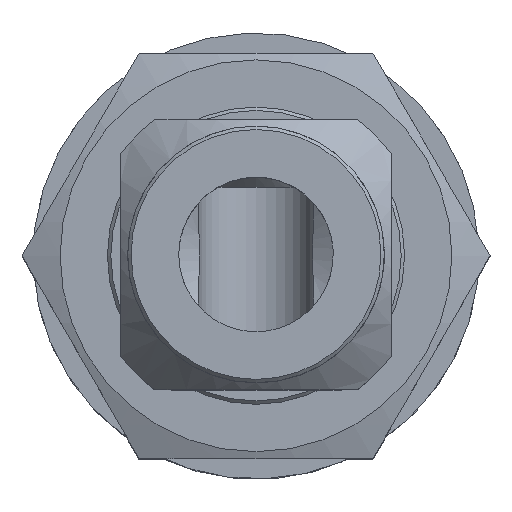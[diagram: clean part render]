
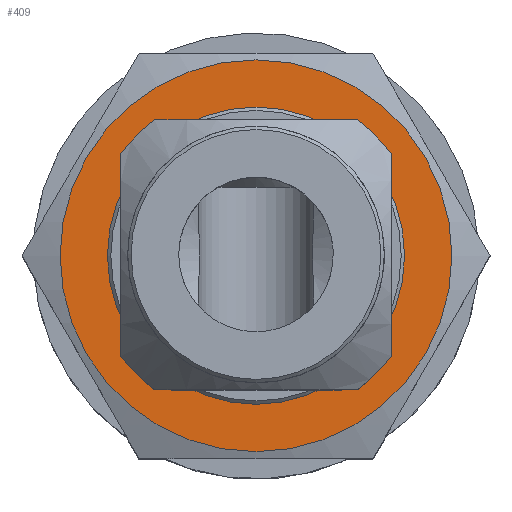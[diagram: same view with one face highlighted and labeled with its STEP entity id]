
A CAD part, top view. The second image highlights one B-rep face of the part: STEP entity #409.
In plain terms, the highlighted planar face has unit normal (0, 0, 1).
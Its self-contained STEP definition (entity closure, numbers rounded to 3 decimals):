
#409=ADVANCED_FACE('',(#735,#736),#737,.F.);
#735=FACE_BOUND('',#1097,.T.);
#736=FACE_OUTER_BOUND('',#1098,.T.);
#737=PLANE('',#1099);
#1097=EDGE_LOOP('',(#2569));
#1098=EDGE_LOOP('',(#2570));
#1099=AXIS2_PLACEMENT_3D('',#2571,#2572,#2573);
#2569=ORIENTED_EDGE('',*,*,#3080,.F.);
#2570=ORIENTED_EDGE('',*,*,#3071,.T.);
#2571=CARTESIAN_POINT('',(8.66,-15.0,0.0));
#2572=DIRECTION('',(0.0,0.0,-1.0));
#2573=DIRECTION('',(-1.0,0.0,0.0));
#3071=EDGE_CURVE('',#3339,#3339,#3340,.T.);
#3080=EDGE_CURVE('',#3352,#3352,#3353,.F.);
#3339=VERTEX_POINT('',#3750);
#3340=CIRCLE('',#3751,14.5);
#3352=VERTEX_POINT('',#3783);
#3353=CIRCLE('',#3784,9.25);
#3750=CARTESIAN_POINT('',(14.5,0.0,0.));
#3751=AXIS2_PLACEMENT_3D('',#4706,#4707,#4708);
#3783=CARTESIAN_POINT('',(-9.25,0.,0.0));
#3784=AXIS2_PLACEMENT_3D('',#4712,#4713,#4714);
#4706=CARTESIAN_POINT('',(0.0,0.0,0.));
#4707=DIRECTION('',(0.0,0.0,1.0));
#4708=DIRECTION('',(1.0,0.0,0.0));
#4712=CARTESIAN_POINT('',(0.,0.0,0.0));
#4713=DIRECTION('',(0.0,0.0,-1.0));
#4714=DIRECTION('',(-1.0,0.0,0.0));
